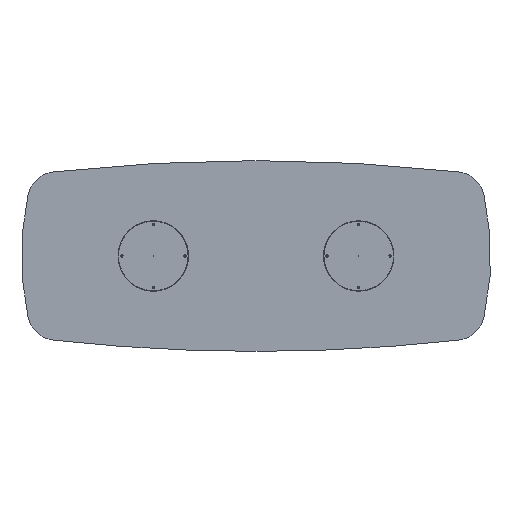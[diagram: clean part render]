
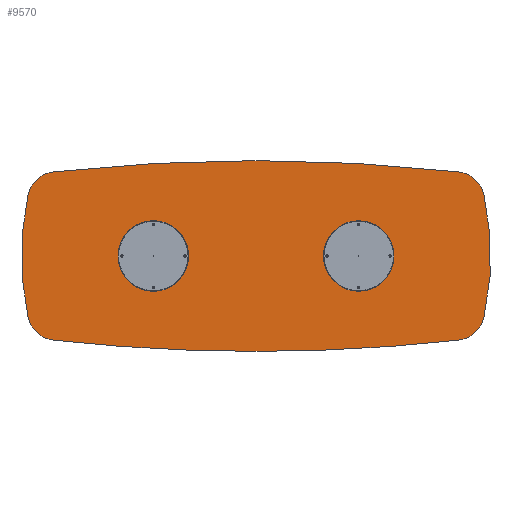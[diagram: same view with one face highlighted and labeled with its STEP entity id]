
A CAD part, front view. The second image highlights one B-rep face of the part: STEP entity #9570.
In plain terms, the highlighted planar face has unit normal (0, -1, 0).
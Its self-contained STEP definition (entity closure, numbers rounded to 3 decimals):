
#73 = DIRECTION ( 'NONE',  ( 0., 1., 0. ) ) ;
#274 = CARTESIAN_POINT ( 'NONE',  ( 1380.257, 0., 573.562 ) ) ;
#323 = EDGE_CURVE ( 'NONE', #610, #5712, #5581, .T. ) ;
#610 = VERTEX_POINT ( 'NONE', #12179 ) ;
#729 = DIRECTION ( 'NONE',  ( 0., 1., 0. ) ) ;
#1170 = CIRCLE ( 'NONE', #8593, 200. ) ;
#1259 = ORIENTED_EDGE ( 'NONE', *, *, #10472, .T. ) ;
#1381 = DIRECTION ( 'NONE',  ( 0., 0., 1. ) ) ;
#1383 = AXIS2_PLACEMENT_3D ( 'NONE', #9196, #3162, #5420 ) ;
#1571 = AXIS2_PLACEMENT_3D ( 'NONE', #4810, #10737, #12645 ) ;
#1833 = AXIS2_PLACEMENT_3D ( 'NONE', #2010, #12904, #12172 ) ;
#1910 = ORIENTED_EDGE ( 'NONE', *, *, #7172, .T. ) ;
#2010 = CARTESIAN_POINT ( 'NONE',  ( -1358.173, 0., -374.785 ) ) ;
#2025 = VERTEX_POINT ( 'NONE', #13078 ) ;
#2138 = DIRECTION ( 'NONE',  ( 0., 0., 1. ) ) ;
#2488 = DIRECTION ( 'NONE',  ( 0., 0., 1. ) ) ;
#2814 = CARTESIAN_POINT ( 'NONE',  ( 1553.252, 0., 418.877 ) ) ;
#2922 = CARTESIAN_POINT ( 'NONE',  ( -1553.252, 0., 418.877 ) ) ;
#3162 = DIRECTION ( 'NONE',  ( 0., 1., 0. ) ) ;
#3335 = DIRECTION ( 'NONE',  ( 0., 1., 0. ) ) ;
#3391 = CARTESIAN_POINT ( 'NONE',  ( -1358.173, 0., 374.785 ) ) ;
#3467 = EDGE_CURVE ( 'NONE', #9605, #6326, #4498, .T. ) ;
#3697 = EDGE_CURVE ( 'NONE', #610, #2025, #8330, .T. ) ;
#3961 = VERTEX_POINT ( 'NONE', #2922 ) ;
#3980 = CARTESIAN_POINT ( 'NONE',  ( 0., 0., 11850. ) ) ;
#4100 = CIRCLE ( 'NONE', #7284, 1900. ) ;
#4357 = ORIENTED_EDGE ( 'NONE', *, *, #6916, .F. ) ;
#4362 = AXIS2_PLACEMENT_3D ( 'NONE', #3391, #10499, #1381 ) ;
#4370 = EDGE_CURVE ( 'NONE', #10562, #2025, #4100, .T. ) ;
#4498 = CIRCLE ( 'NONE', #6221, 12500. ) ;
#4696 = ORIENTED_EDGE ( 'NONE', *, *, #4370, .F. ) ;
#4733 = EDGE_LOOP ( 'NONE', ( #8407, #9258, #4897, #1259, #4357, #13107, #12462, #4696, #1910 ) ) ;
#4768 = CARTESIAN_POINT ( 'NONE',  ( -1380.257, 0., -573.562 ) ) ;
#4788 = FACE_OUTER_BOUND ( 'NONE', #4733, .T. ) ;
#4810 = CARTESIAN_POINT ( 'NONE',  ( 300., 0., 0. ) ) ;
#4897 = ORIENTED_EDGE ( 'NONE', *, *, #5382, .F. ) ;
#4980 = CIRCLE ( 'NONE', #1571, 1900. ) ;
#5214 = CIRCLE ( 'NONE', #1383, 12500. ) ;
#5377 = AXIS2_PLACEMENT_3D ( 'NONE', #3980, #729, #8093 ) ;
#5382 = EDGE_CURVE ( 'NONE', #12846, #3961, #4980, .T. ) ;
#5420 = DIRECTION ( 'NONE',  ( 0., 0., 1. ) ) ;
#5581 = CIRCLE ( 'NONE', #5377, 12500. ) ;
#5712 = VERTEX_POINT ( 'NONE', #7334 ) ;
#6182 = CARTESIAN_POINT ( 'NONE',  ( -1553.252, 0., -418.877 ) ) ;
#6221 = AXIS2_PLACEMENT_3D ( 'NONE', #12419, #3335, #2138 ) ;
#6326 = VERTEX_POINT ( 'NONE', #274 ) ;
#6651 = DIRECTION ( 'NONE',  ( 0., 0., 1. ) ) ;
#6788 = CARTESIAN_POINT ( 'NONE',  ( -1380.257, 0., 573.562 ) ) ;
#6916 = EDGE_CURVE ( 'NONE', #5712, #7564, #5214, .T. ) ;
#7172 = EDGE_CURVE ( 'NONE', #10562, #6326, #1170, .T. ) ;
#7284 = AXIS2_PLACEMENT_3D ( 'NONE', #11172, #73, #9169 ) ;
#7334 = CARTESIAN_POINT ( 'NONE',  ( 0., 0., -650. ) ) ;
#7542 = CIRCLE ( 'NONE', #1833, 200. ) ;
#7562 = EDGE_CURVE ( 'NONE', #9605, #3961, #11370, .T. ) ;
#7564 = VERTEX_POINT ( 'NONE', #4768 ) ;
#7574 = CARTESIAN_POINT ( 'NONE',  ( 1358.173, 0., 374.785 ) ) ;
#7761 = CARTESIAN_POINT ( 'NONE',  ( -150., 0., 5925. ) ) ;
#8093 = DIRECTION ( 'NONE',  ( 0., 0., 1. ) ) ;
#8330 = CIRCLE ( 'NONE', #12998, 200. ) ;
#8407 = ORIENTED_EDGE ( 'NONE', *, *, #3467, .F. ) ;
#8565 = DIRECTION ( 'NONE',  ( 0., -1., 0. ) ) ;
#8593 = AXIS2_PLACEMENT_3D ( 'NONE', #7574, #11700, #2488 ) ;
#8765 = PLANE ( 'NONE',  #12463 ) ;
#9169 = DIRECTION ( 'NONE',  ( 0., 0., 1. ) ) ;
#9196 = CARTESIAN_POINT ( 'NONE',  ( 0., 0., 11850. ) ) ;
#9219 = DIRECTION ( 'NONE',  ( 0., 1., 0. ) ) ;
#9258 = ORIENTED_EDGE ( 'NONE', *, *, #7562, .T. ) ;
#9570 = ADVANCED_FACE ( 'NONE', ( #4788 ), #8765, .F. ) ;
#9605 = VERTEX_POINT ( 'NONE', #6788 ) ;
#10472 = EDGE_CURVE ( 'NONE', #12846, #7564, #7542, .T. ) ;
#10499 = DIRECTION ( 'NONE',  ( 0., -1., 0. ) ) ;
#10562 = VERTEX_POINT ( 'NONE', #2814 ) ;
#10577 = CARTESIAN_POINT ( 'NONE',  ( 1358.173, 0., -374.785 ) ) ;
#10737 = DIRECTION ( 'NONE',  ( 0., 1., 0. ) ) ;
#11172 = CARTESIAN_POINT ( 'NONE',  ( -300., 0., 0. ) ) ;
#11218 = DIRECTION ( 'NONE',  ( 0., 0., 1. ) ) ;
#11370 = CIRCLE ( 'NONE', #4362, 200. ) ;
#11700 = DIRECTION ( 'NONE',  ( 0., -1., 0. ) ) ;
#12172 = DIRECTION ( 'NONE',  ( 0., 0., 1. ) ) ;
#12179 = CARTESIAN_POINT ( 'NONE',  ( 1380.257, 0., -573.562 ) ) ;
#12419 = CARTESIAN_POINT ( 'NONE',  ( 0., 0., -11850. ) ) ;
#12462 = ORIENTED_EDGE ( 'NONE', *, *, #3697, .T. ) ;
#12463 = AXIS2_PLACEMENT_3D ( 'NONE', #7761, #9219, #11218 ) ;
#12645 = DIRECTION ( 'NONE',  ( 0., 0., 1. ) ) ;
#12846 = VERTEX_POINT ( 'NONE', #6182 ) ;
#12904 = DIRECTION ( 'NONE',  ( 0., -1., 0. ) ) ;
#12998 = AXIS2_PLACEMENT_3D ( 'NONE', #10577, #8565, #6651 ) ;
#13078 = CARTESIAN_POINT ( 'NONE',  ( 1553.252, 0., -418.877 ) ) ;
#13107 = ORIENTED_EDGE ( 'NONE', *, *, #323, .F. ) ;
